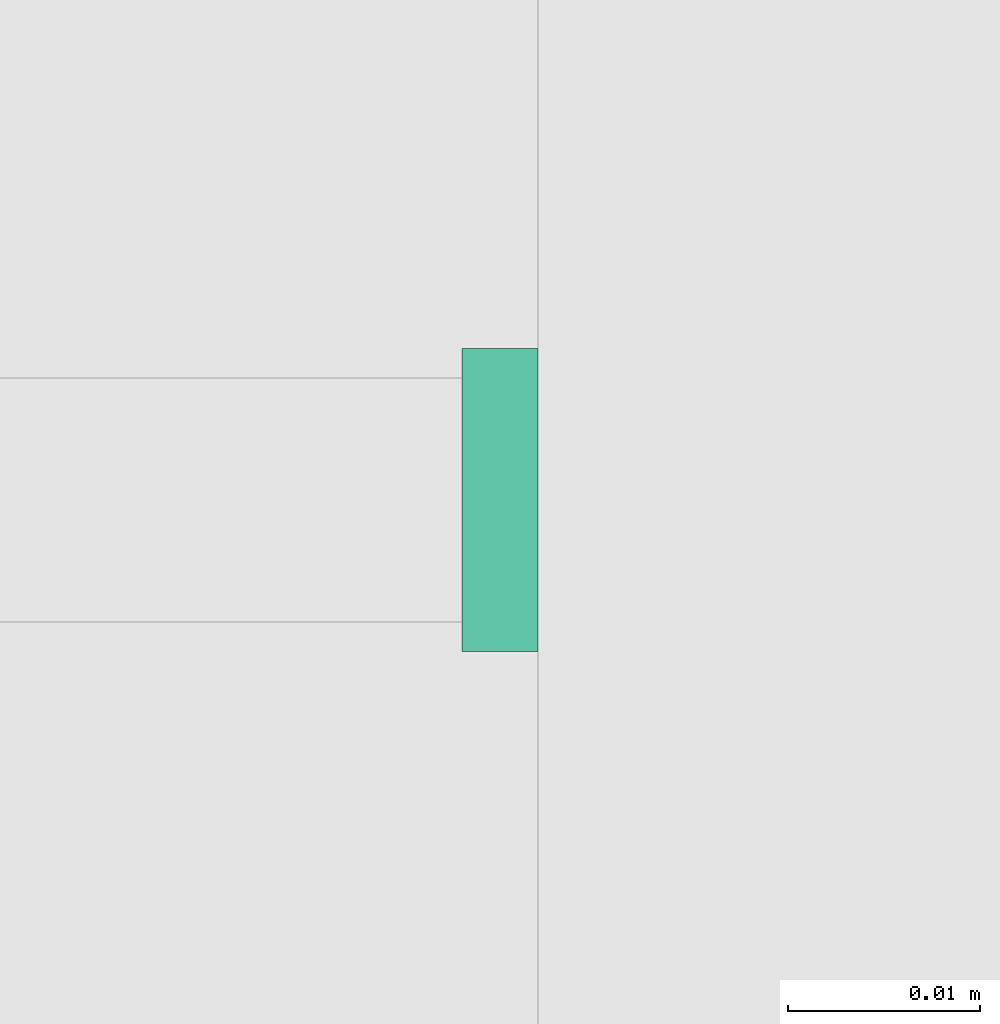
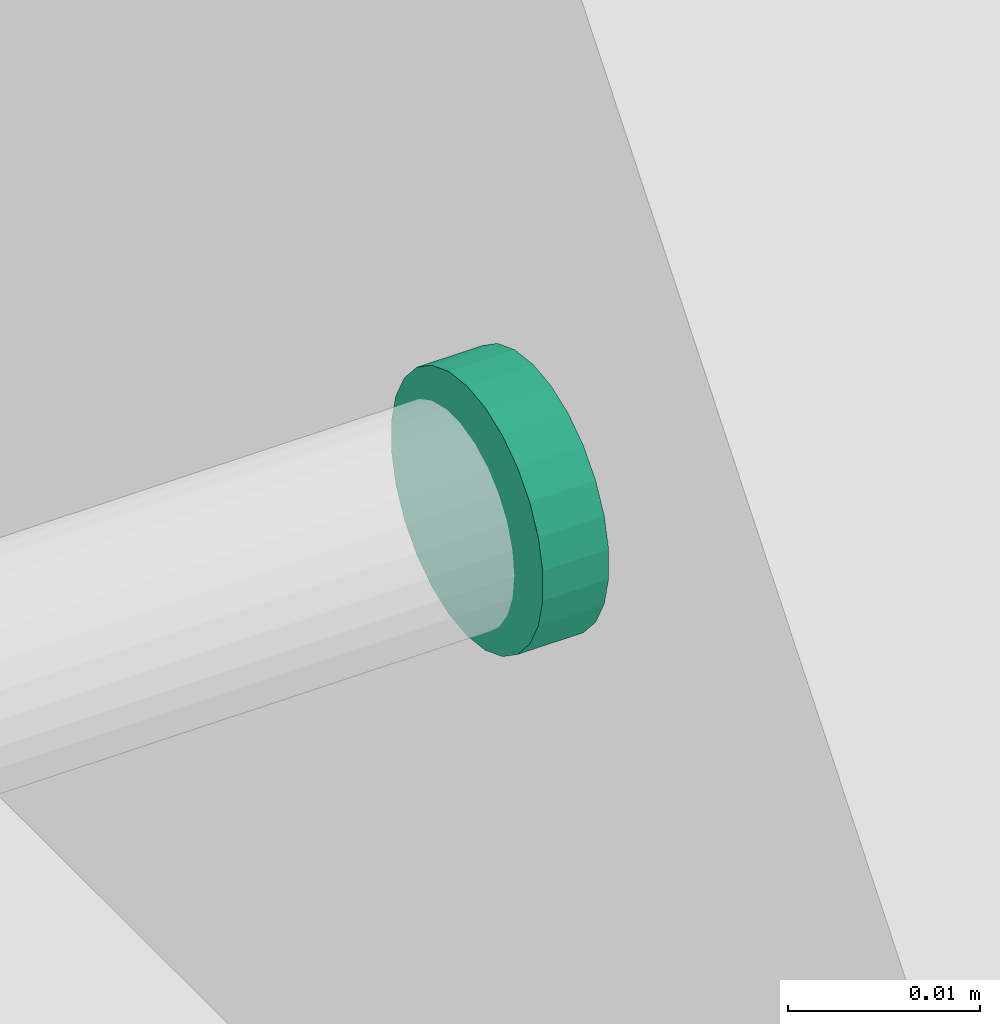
# One storey, part 11 of 24: 1 flow fitting.
"""IFC2X3 building model written with IfcOpenShell, lengths in millimetres."""

from ifc_helpers import new_model, entity, si_unit, converted_unit, derived_unit, direction, frame, origin, origin_2d_with_axis, place, context, subcontext, project, spatial, circle, extrude, source, transform, mapped, material, type_object, type_shapes, element, save


model = new_model("IFC2X3")

# Units and contexts
model_context = context("Model", 3, precision=0.01, world=origin(), true_north=direction((6.123031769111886e-17, 1.0)))
body_context = subcontext(model_context, "Body", "Model", "MODEL_VIEW")
ifc_project = project(units=[si_unit("LENGTHUNIT", "METRE", prefix="MILLI"), si_unit("AREAUNIT", "SQUARE_METRE"), si_unit("VOLUMEUNIT", "CUBIC_METRE"), converted_unit("PLANEANGLEUNIT", "DEGREE", entity("IfcRatioMeasure", 0.017453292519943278), si_unit("PLANEANGLEUNIT", "RADIAN"), dimensions=[0, 0, 0, 0, 0, 0, 0]), si_unit("MASSUNIT", "GRAM", prefix="KILO"), derived_unit("MASSDENSITYUNIT", [(si_unit("MASSUNIT", "GRAM", prefix="KILO"), 1), (si_unit("LENGTHUNIT", "METRE"), -3)]), derived_unit("MOMENTOFINERTIAUNIT", [(si_unit("LENGTHUNIT", "METRE"), 4)]), si_unit("TIMEUNIT", "SECOND"), si_unit("FREQUENCYUNIT", "HERTZ"), si_unit("THERMODYNAMICTEMPERATUREUNIT", "DEGREE_CELSIUS"), derived_unit("THERMALTRANSMITTANCEUNIT", [(si_unit("MASSUNIT", "GRAM", prefix="KILO"), 1), (si_unit("THERMODYNAMICTEMPERATUREUNIT", "KELVIN"), -1), (si_unit("TIMEUNIT", "SECOND"), -3)]), derived_unit("VOLUMETRICFLOWRATEUNIT", [(si_unit("LENGTHUNIT", "METRE"), 3), (si_unit("TIMEUNIT", "SECOND"), -1)]), derived_unit("MASSFLOWRATEUNIT", [(si_unit("MASSUNIT", "GRAM", prefix="KILO"), 1), (si_unit("TIMEUNIT", "SECOND"), -1)]), derived_unit("ROTATIONALFREQUENCYUNIT", [(si_unit("TIMEUNIT", "SECOND"), -1)]), si_unit("ELECTRICCURRENTUNIT", "AMPERE"), si_unit("ELECTRICVOLTAGEUNIT", "VOLT"), si_unit("POWERUNIT", "WATT"), si_unit("FORCEUNIT", "NEWTON", prefix="KILO"), si_unit("ILLUMINANCEUNIT", "LUX"), si_unit("LUMINOUSFLUXUNIT", "LUMEN"), si_unit("LUMINOUSINTENSITYUNIT", "CANDELA"), derived_unit("USERDEFINED", [(si_unit("MASSUNIT", "GRAM", prefix="KILO"), -1), (si_unit("LENGTHUNIT", "METRE"), -2), (si_unit("TIMEUNIT", "SECOND"), 3), (si_unit("LUMINOUSFLUXUNIT", "LUMEN"), 1)]), derived_unit("SOUNDPOWERUNIT", [(si_unit("MASSUNIT", "GRAM", prefix="KILO"), 1), (si_unit("LENGTHUNIT", "METRE"), 2), (si_unit("TIMEUNIT", "SECOND"), -3)]), derived_unit("SOUNDPRESSUREUNIT", [(si_unit("MASSUNIT", "GRAM", prefix="KILO"), 1), (si_unit("LENGTHUNIT", "METRE"), -1), (si_unit("TIMEUNIT", "SECOND"), -2)]), derived_unit("LINEARVELOCITYUNIT", [(si_unit("LENGTHUNIT", "METRE"), 1), (si_unit("TIMEUNIT", "SECOND"), -1)]), si_unit("PRESSUREUNIT", "PASCAL"), derived_unit("USERDEFINED", [(si_unit("LENGTHUNIT", "METRE"), -2), (si_unit("MASSUNIT", "GRAM", prefix="KILO"), 1), (si_unit("TIMEUNIT", "SECOND"), -2)]), derived_unit("LINEARFORCEUNIT", [(si_unit("MASSUNIT", "GRAM", prefix="KILO"), 1), (si_unit("LENGTHUNIT", "METRE"), 1), (si_unit("TIMEUNIT", "SECOND"), -2), (si_unit("LENGTHUNIT", "METRE"), -1)]), derived_unit("PLANARFORCEUNIT", [(si_unit("MASSUNIT", "GRAM", prefix="KILO"), 1), (si_unit("LENGTHUNIT", "METRE"), 1), (si_unit("TIMEUNIT", "SECOND"), -2), (si_unit("LENGTHUNIT", "METRE"), -2)])], contexts=[model_context])

# Site, building, storey
site_placement = place(None, origin())
site = spatial("IfcSite", under=ifc_project, at=site_placement, Name="Default", CompositionType="ELEMENT")
building_placement = place(site_placement, origin())
building = spatial("IfcBuilding", under=site, at=building_placement, CompositionType="ELEMENT")
storey_placement = place(building_placement, origin())
storey = spatial("IfcBuildingStorey", under=building, at=storey_placement, Name="Level 1", CompositionType="ELEMENT", Elevation=0.0)

# Flow fitting
ifc_material = material(Name="<Unnamed>")
pipe_fitting_type = type_object("IfcPipeFittingType", Name="M_Transition - Generic:Standard:Standard : M_Transition - Generic:Standard", PredefinedType="NOTDEFINED", material=ifc_material)
shared_shape = source(origin(), body_context, "Body", "SweptSolid", [
    extrude(circle(Radius=7.937500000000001, at=origin_2d_with_axis()), frame((-6769.794384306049, 2707.61443282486, 2710.0), z_axis=(1.0, 0.0, 0.0), x_axis=(0.0, 0.0, 1.0)), (0.0, 0.0, 1.0), 3.9687499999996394),
])
type_shapes(pipe_fitting_type, [shared_shape])
flow_fitting_placement = place(storey_placement, origin())
element("IfcFlowFitting", 1, at=flow_fitting_placement, inside=storey, type_object=pipe_fitting_type, material=ifc_material, Name="M_Transition - Generic:Standard:Standard : M_Transition - Generic:Standard:Standard:Standard : M_Transition - Generic:Standard : M_Transition - Generic:Standard:Standard : M_Transition - Generic:Standard", ObjectType="M_Transition - Generic:Standard:Standard : M_Transition - Generic:Standard:Standard:Standard : M_Transition - Generic:Standard : M_Transition - Generic:Standard:Standard : M_Transition - Generic:Standard", context=body_context, shape_type="MappedRepresentation", body=[
    mapped(shared_shape, transform((0.0, 0.0, 0.0), scale=1.0)),
])

save(model, "model.ifc")
